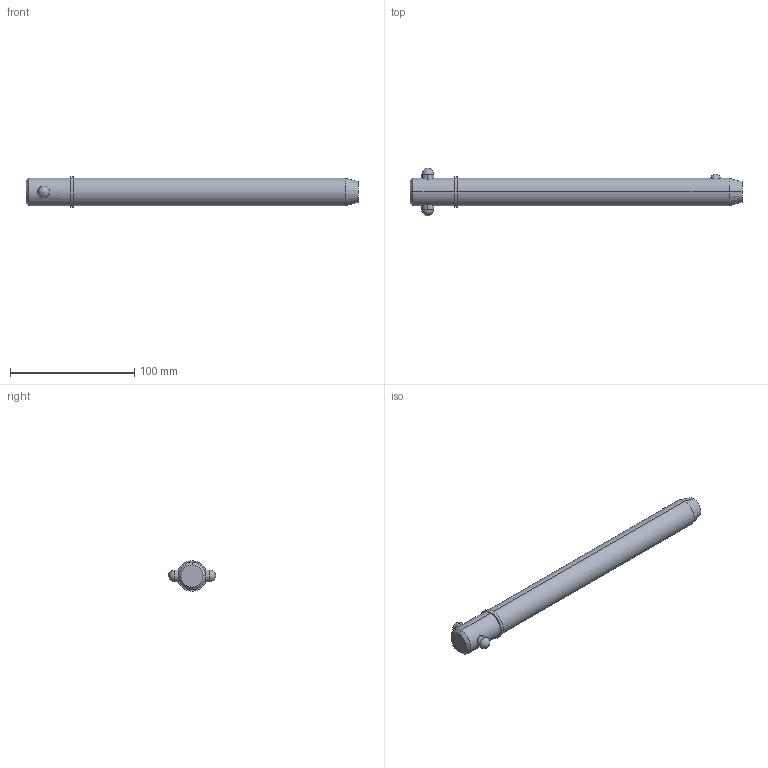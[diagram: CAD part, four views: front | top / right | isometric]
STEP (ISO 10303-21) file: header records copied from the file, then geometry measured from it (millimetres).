
FILE_DESCRIPTION (( 'STEP AP203' ), '1' );
FILE_NAME ('33018.W8880.step', '2024-11-19T17:23:35', ( '' ), ( '' ), 'SwSTEP 2.0', 'SolidWorks 2019', '' );
FILE_SCHEMA (( 'CONFIG_CONTROL_DESIGN' ));
Length unit declared in the file: millimetre
Products named in the file (3): 33018.W8880; Part2_33018.W8880; Part1_33018.W8880
Assembly tree (2 placements, depth 2):
  33018.W8880
    Part1_33018.W8880
    Part2_33018.W8880
Bounding box: 266.7 x 38.1 x 24.45 mm (x, y, z)
Volume: 103654.6 mm3; surface area: 20909 mm2
Topology: 2 solids, 2 shells, 22 faces, 47 edges, 30 vertices
Faces by surface type: cylinder 10, sphere 4, cone 4, plane 4
Entity records: 1057 total; most frequent: CARTESIAN_POINT 300, DIRECTION 110, ORIENTED_EDGE 82, AXIS2_PLACEMENT_3D 48, EDGE_CURVE 41, EDGE_LOOP 27, PERSON_AND_ORGANIZATION 26, VERTEX_POINT 26
